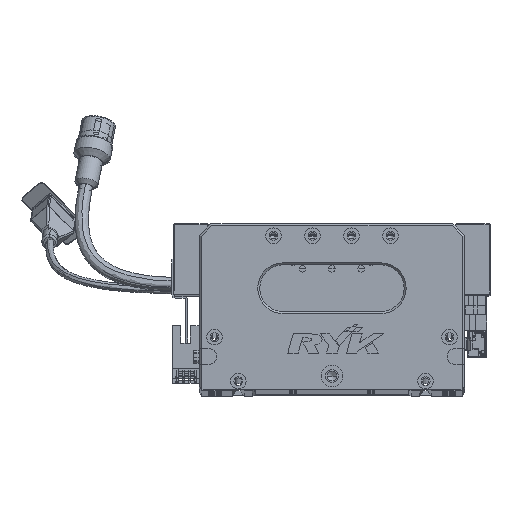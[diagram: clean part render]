
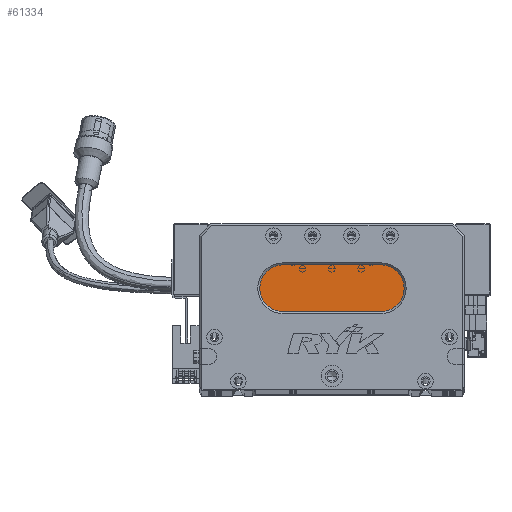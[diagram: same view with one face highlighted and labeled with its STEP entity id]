
A CAD part, top view. The second image highlights one B-rep face of the part: STEP entity #61334.
In plain terms, the highlighted planar face has unit normal (0, 0, 1) as drawn and (0, 0, -1) by its records, which use the part's own axes.
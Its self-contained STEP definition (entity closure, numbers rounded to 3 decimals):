
#590 = ORIENTED_EDGE ( 'NONE', *, *, #77872, .T. ) ;
#2519 = FACE_OUTER_BOUND ( 'NONE', #38729, .T. ) ;
#4982 = CARTESIAN_POINT ( 'NONE',  ( 93., 40., 13. ) ) ;
#9043 = CARTESIAN_POINT ( 'NONE',  ( 43., 40., 13. ) ) ;
#9982 = DIRECTION ( 'NONE',  ( -1., 0., 0. ) ) ;
#11784 = DIRECTION ( 'NONE',  ( -1., 0., 0. ) ) ;
#17338 = CARTESIAN_POINT ( 'NONE',  ( 43., 52., 13. ) ) ;
#18588 = CARTESIAN_POINT ( 'NONE',  ( 93., 40., 13. ) ) ;
#19282 = DIRECTION ( 'NONE',  ( 0., 0., -1. ) ) ;
#21811 = CARTESIAN_POINT ( 'NONE',  ( 93., 64., 13. ) ) ;
#29975 = ORIENTED_EDGE ( 'NONE', *, *, #36181, .T. ) ;
#30378 = PLANE ( 'NONE',  #55769 ) ;
#35094 = EDGE_CURVE ( 'NONE', #52231, #48923, #95008, .T. ) ;
#36181 = EDGE_CURVE ( 'NONE', #48923, #76452, #54072, .T. ) ;
#38729 = EDGE_LOOP ( 'NONE', ( #590, #76283, #59105, #92996, #29975 ) ) ;
#40094 = EDGE_CURVE ( 'NONE', #89734, #97908, #40592, .T. ) ;
#40592 = LINE ( 'NONE', #18588, #84130 ) ;
#48032 = CARTESIAN_POINT ( 'NONE',  ( 93., 64., 13. ) ) ;
#48923 = VERTEX_POINT ( 'NONE', #102409 ) ;
#52231 = VERTEX_POINT ( 'NONE', #93696 ) ;
#54048 = DIRECTION ( 'NONE',  ( -1., 0., 0. ) ) ;
#54069 = AXIS2_PLACEMENT_3D ( 'NONE', #77682, #94158, #11784 ) ;
#54072 = LINE ( 'NONE', #21811, #59167 ) ;
#55769 = AXIS2_PLACEMENT_3D ( 'NONE', #70147, #104179, #54048 ) ;
#57146 = AXIS2_PLACEMENT_3D ( 'NONE', #17338, #83537, #59220 ) ;
#59105 = ORIENTED_EDGE ( 'NONE', *, *, #86348, .T. ) ;
#59167 = VECTOR ( 'NONE', #87358, 1000. ) ;
#59220 = DIRECTION ( 'NONE',  ( -1., 0., 0. ) ) ;
#61334 = ADVANCED_FACE ( 'NONE', ( #2519 ), #30378, .T. ) ;
#65326 = CIRCLE ( 'NONE', #91769, 12. ) ;
#70147 = CARTESIAN_POINT ( 'NONE',  ( 93., 52., 13. ) ) ;
#76283 = ORIENTED_EDGE ( 'NONE', *, *, #40094, .T. ) ;
#76452 = VERTEX_POINT ( 'NONE', #48032 ) ;
#77682 = CARTESIAN_POINT ( 'NONE',  ( 43., 52., 13. ) ) ;
#77872 = EDGE_CURVE ( 'NONE', #76452, #89734, #65326, .T. ) ;
#83537 = DIRECTION ( 'NONE',  ( 0., 0., -1. ) ) ;
#84130 = VECTOR ( 'NONE', #9982, 1000. ) ;
#86348 = EDGE_CURVE ( 'NONE', #97908, #52231, #100152, .T. ) ;
#87358 = DIRECTION ( 'NONE',  ( 1., 0., 0. ) ) ;
#89734 = VERTEX_POINT ( 'NONE', #4982 ) ;
#91769 = AXIS2_PLACEMENT_3D ( 'NONE', #99876, #19282, #91965 ) ;
#91965 = DIRECTION ( 'NONE',  ( -1., 0., 0. ) ) ;
#92996 = ORIENTED_EDGE ( 'NONE', *, *, #35094, .T. ) ;
#93696 = CARTESIAN_POINT ( 'NONE',  ( 31., 52., 13. ) ) ;
#94158 = DIRECTION ( 'NONE',  ( 0., 0., -1. ) ) ;
#95008 = CIRCLE ( 'NONE', #57146, 12. ) ;
#97908 = VERTEX_POINT ( 'NONE', #9043 ) ;
#99876 = CARTESIAN_POINT ( 'NONE',  ( 93., 52., 13. ) ) ;
#100152 = CIRCLE ( 'NONE', #54069, 12. ) ;
#102409 = CARTESIAN_POINT ( 'NONE',  ( 43., 64., 13. ) ) ;
#104179 = DIRECTION ( 'NONE',  ( 0., 0., -1. ) ) ;
